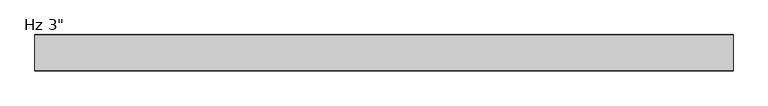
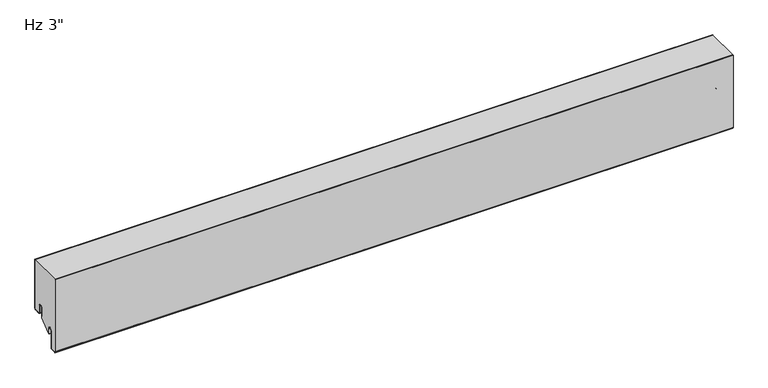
"""IFC4 building model written with IfcOpenShell, lengths in millimetres: plate geometry."""

from ifc_helpers import new_model, si_unit, point, frame, frame_2d, origin, place, context, project, spatial, polyline, circle_curve, trimmed, segment, composite_curve, outline, extrude, source, transform, mapped, element, save


def plate_63ff22c1(model_context):
    return source(origin(), model_context, "Body", "SweptSolid", [
        extrude(outline(composite_curve([segment(trimmed(circle_curve(frame_2d((-21.43125, 19.05)), 4.96875), [point((-16.4625, 19.05))], [point((-26.4, 19.05))], True, "CARTESIAN"), True, "CONTINUOUS"), segment(polyline([(-26.4, 19.05), (-26.4, -3.1323422), (-49.2157227, -23.01875), (-50.8, -23.01875), (-50.8, -13.5080174), (-51.59375, -13.5080174), (-51.3875, -11.9205174)]), True, "CONTINUOUS"), segment(trimmed(circle_curve(frame_2d((-56.35625, -11.9205174)), 4.96875), [point((-51.3875, -11.9205174))], [point((-61.325, -11.9205174))], True, "CARTESIAN"), True, "CONTINUOUS"), segment(polyline([(-61.325, -11.9205174), (-61.325, -50.1038221)]), True, "CONTINUOUS"), segment(trimmed(circle_curve(frame_2d((-62.70625, -50.1038221)), 1.38125), [point((-61.325, -50.1038221))], [point((-62.633961, -51.4831791))], False, "CARTESIAN"), True, "CONTINUOUS"), segment(polyline([(-62.633961, -51.4831791), (-73.746461, -52.0655606)]), True, "CONTINUOUS"), segment(trimmed(circle_curve(frame_2d((-73.81875, -50.6862035)), 1.38125), [point((-73.746461, -52.0655606))], [point((-75.2, -50.6862035))], False, "CARTESIAN"), True, "CONTINUOUS"), segment(polyline([(-75.2, -50.6862035), (-75.2, 114.0), (-1.0, 114.0), (-1.0, 3.175)]), True, "CONTINUOUS"), segment(trimmed(circle_curve(frame_2d((-2.38125, 3.175)), 1.38125), [point((-1.0, 3.175))], [point((-2.38125, 1.79375))], False, "CARTESIAN"), True, "CONTINUOUS"), segment(polyline([(-2.38125, 1.79375), (-15.08125, 1.79375)]), True, "CONTINUOUS"), segment(trimmed(circle_curve(frame_2d((-15.08125, 3.175)), 1.38125), [point((-15.08125, 1.79375))], [point((-16.4625, 3.175))], False, "CARTESIAN"), True, "CONTINUOUS"), segment(polyline([(-16.4625, 3.175), (-16.4625, 19.05)]), True, "CONTINUOUS")], self_intersect=False)), frame((-730.0, 0.0, 0.0), z_axis=(1.0, 0.0, 0.0), x_axis=(0.0, 1.0, 0.0)), (0.0, 0.0, 1.0), 1460.0),
        extrude(outline(composite_curve([segment(polyline([(-25.4, 0.79375), (-26.4, 0.79375), (-26.4, 19.05)]), True, "CONTINUOUS"), segment(trimmed(circle_curve(frame_2d((-21.43125, 19.05)), 4.96875), [point((-26.4, 19.05))], [point((-16.4625, 19.05))], False, "CARTESIAN"), True, "CONTINUOUS"), segment(polyline([(-16.4625, 19.05), (-16.4625, 3.175)]), True, "CONTINUOUS"), segment(trimmed(circle_curve(frame_2d((-15.08125, 3.175)), 1.38125), [point((-16.4625, 3.175))], [point((-15.08125, 1.79375))], True, "CARTESIAN"), True, "CONTINUOUS"), segment(polyline([(-15.08125, 1.79375), (-2.38125, 1.79375)]), True, "CONTINUOUS"), segment(trimmed(circle_curve(frame_2d((-2.38125, 3.175)), 1.38125), [point((-2.38125, 1.79375))], [point((-1.0, 3.175))], True, "CARTESIAN"), True, "CONTINUOUS"), segment(polyline([(-1.0, 3.175), (-1.0, 114.0), (0.0, 114.0), (0.0, 3.175)]), True, "CONTINUOUS"), segment(trimmed(circle_curve(frame_2d((-2.38125, 3.175)), 2.38125), [point((0.0, 3.175))], [point((-2.38125, 0.79375))], False, "CARTESIAN"), True, "CONTINUOUS"), segment(polyline([(-2.38125, 0.79375), (-15.08125, 0.79375)]), True, "CONTINUOUS"), segment(trimmed(circle_curve(frame_2d((-15.08125, 3.175)), 2.38125), [point((-15.08125, 0.79375))], [point((-17.4625, 3.175))], False, "CARTESIAN"), True, "CONTINUOUS"), segment(polyline([(-17.4625, 3.175), (-17.4625, 19.05)]), True, "CONTINUOUS"), segment(trimmed(circle_curve(frame_2d((-21.43125, 19.05)), 3.96875), [point((-17.4625, 19.05))], [point((-25.4, 19.05))], True, "CARTESIAN"), True, "CONTINUOUS"), segment(polyline([(-25.4, 19.05), (-25.4, 0.79375)]), True, "CONTINUOUS")], self_intersect=False)), frame((-730.0, 0.0, 0.0), z_axis=(1.0, 0.0, 0.0), x_axis=(0.0, 1.0, 0.0)), (0.0, 0.0, 1.0), 1460.0),
        extrude(outline(composite_curve([segment(trimmed(circle_curve(frame_2d((-51.59375, -23.2314549)), 0.79375), [point((-50.8, -23.2314549))], [point((-52.3875, -23.2314549))], False, "CARTESIAN"), True, "CONTINUOUS"), segment(polyline([(-52.3875, -23.2314549), (-52.3875, -11.9205174)]), True, "CONTINUOUS"), segment(trimmed(circle_curve(frame_2d((-56.35625, -11.9205174)), 3.96875), [point((-52.3875, -11.9205174))], [point((-60.325, -11.9205174))], True, "CARTESIAN"), True, "CONTINUOUS"), segment(polyline([(-60.325, -11.9205174), (-60.325, -50.1038221)]), True, "CONTINUOUS"), segment(trimmed(circle_curve(frame_2d((-62.70625, -50.1038221)), 2.38125), [point((-60.325, -50.1038221))], [point((-62.581625, -52.4818086))], False, "CARTESIAN"), True, "CONTINUOUS"), segment(polyline([(-62.581625, -52.4818086), (-73.694125, -53.0641901)]), True, "CONTINUOUS"), segment(trimmed(circle_curve(frame_2d((-73.81875, -50.6862035)), 2.38125), [point((-73.694125, -53.0641901))], [point((-76.2, -50.6862035))], False, "CARTESIAN"), True, "CONTINUOUS"), segment(polyline([(-76.2, -50.6862035), (-76.2, 114.0), (-75.2, 114.0), (-75.2, -50.6862035)]), True, "CONTINUOUS"), segment(trimmed(circle_curve(frame_2d((-73.81875, -50.6862035)), 1.38125), [point((-75.2, -50.6862035))], [point((-73.746461, -52.0655606))], True, "CARTESIAN"), True, "CONTINUOUS"), segment(polyline([(-73.746461, -52.0655606), (-62.633961, -51.4831791)]), True, "CONTINUOUS"), segment(trimmed(circle_curve(frame_2d((-62.70625, -50.1038221)), 1.38125), [point((-62.633961, -51.4831791))], [point((-61.325, -50.1038221))], True, "CARTESIAN"), True, "CONTINUOUS"), segment(polyline([(-61.325, -50.1038221), (-61.325, -11.9205174)]), True, "CONTINUOUS"), segment(trimmed(circle_curve(frame_2d((-56.35625, -11.9205174)), 4.96875), [point((-61.325, -11.9205174))], [point((-51.3875, -11.9205174))], False, "CARTESIAN"), True, "CONTINUOUS"), segment(polyline([(-51.3875, -11.9205174), (-51.59375, -13.5080174), (-50.8, -13.5080174), (-50.8, -23.2314549)]), True, "CONTINUOUS")], self_intersect=False)), frame((-730.0, 0.0, 0.0), z_axis=(1.0, 0.0, 0.0), x_axis=(0.0, 1.0, 0.0)), (0.0, 0.0, 1.0), 1460.0),
    ])


if __name__ == "__main__":
    model = new_model("IFC4")
    model_context = context("Model", 3, world=origin())
    ifc_project = project(units=[si_unit("LENGTHUNIT", "METRE", prefix="MILLI")], contexts=[model_context])
    site = spatial("IfcSite", under=ifc_project)
    building = spatial("IfcBuilding", under=site)
    placement = place(None, origin())
    plate_shape = plate_63ff22c1(model_context)
    element("IfcPlate", 1, ObjectType="KIP-30-DWHR-R19-CP-Hz-F : Hz 3\"", at=placement, inside=building, context=model_context, shape_type="MappedRepresentation", body=[
        mapped(plate_shape, transform((0.0, 0.0, 0.0), x_axis=(1.0, 0.0, 0.0), y_axis=(0.0, 1.0, 0.0), z_axis=(0.0, 0.0, 1.0))),
    ])
    save(model, "model.ifc")
